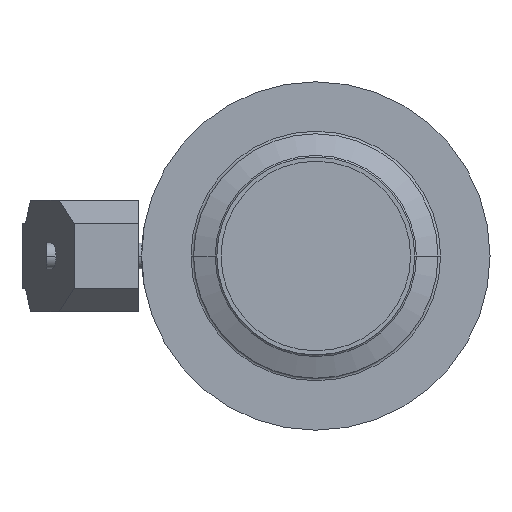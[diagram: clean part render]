
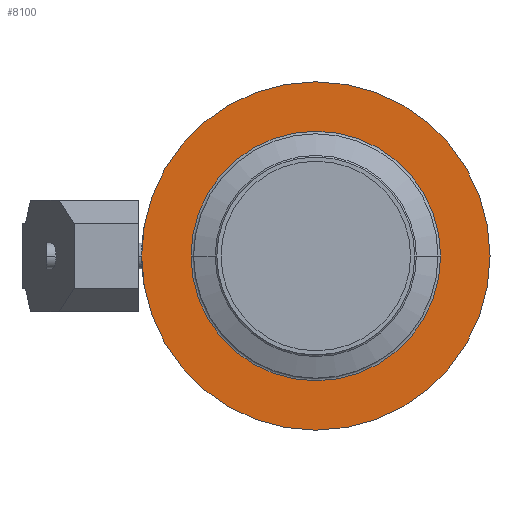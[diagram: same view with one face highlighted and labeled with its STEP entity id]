
A CAD part, left-side view. The second image highlights one B-rep face of the part: STEP entity #8100.
In plain terms, the highlighted planar face has unit normal (-1, 0, 0) as drawn and (1, 0, 0) by its records, which use the part's own axes.
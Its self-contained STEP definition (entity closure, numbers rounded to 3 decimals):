
#7620=CARTESIAN_POINT('',(-502.95,-80.485,
0.));
#7630=VERTEX_POINT('',#7620);
#7710=CARTESIAN_POINT('',(-502.95,53.515,0.));
#7720=VERTEX_POINT('',#7710);
#7750=CARTESIAN_POINT('',(-502.95,-13.485,0.));
#7760=DIRECTION('',(-1.,0.,0.));
#7770=DIRECTION('',(0.,1.,0.));
#7780=AXIS2_PLACEMENT_3D('',#7750,#7760,#7770);
#7790=CIRCLE('',#7780,67.);
#7800=EDGE_CURVE('',#7630,#7720,#7790,.T.);
#7850=CARTESIAN_POINT('',(-502.95,51.165,0.));
#7860=DIRECTION('',(-1.,0.,0.));
#7870=DIRECTION('',(0.,-1.,0.));
#7880=AXIS2_PLACEMENT_3D('',#7850,#7860,#7870);
#7890=PLANE('',#7880);
#7900=CARTESIAN_POINT('',(-502.95,-13.485,0.));
#7910=DIRECTION('',(-1.,0.,0.));
#7920=DIRECTION('',(0.,1.,0.));
#7930=AXIS2_PLACEMENT_3D('',#7900,#7910,#7920);
#7940=CIRCLE('',#7930,48.);
#7950=CARTESIAN_POINT('',(-502.95,34.515,0.));
#7960=VERTEX_POINT('',#7950);
#7970=CARTESIAN_POINT('',(-502.95,-61.485,0.));
#7980=VERTEX_POINT('',#7970);
#7990=EDGE_CURVE('',#7960,#7980,#7940,.T.);
#8000=ORIENTED_EDGE('',*,*,#7990,.T.);
#8010=EDGE_CURVE('',#7980,#7960,#7940,.T.);
#8020=ORIENTED_EDGE('',*,*,#8010,.T.);
#8030=EDGE_LOOP('',(#8020,#8000));
#8040=FACE_BOUND('',#8030,.T.);
#8050=EDGE_CURVE('',#7720,#7630,#7790,.T.);
#8060=ORIENTED_EDGE('',*,*,#8050,.F.);
#8070=ORIENTED_EDGE('',*,*,#7800,.F.);
#8080=EDGE_LOOP('',(#8070,#8060));
#8090=FACE_OUTER_BOUND('',#8080,.T.);
#8100=ADVANCED_FACE('',(#8040,#8090),#7890,.F.);
